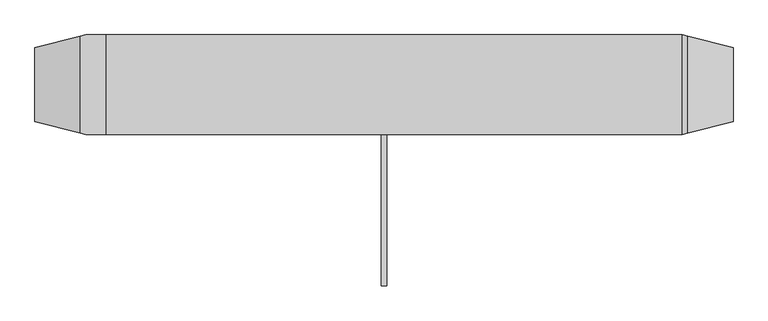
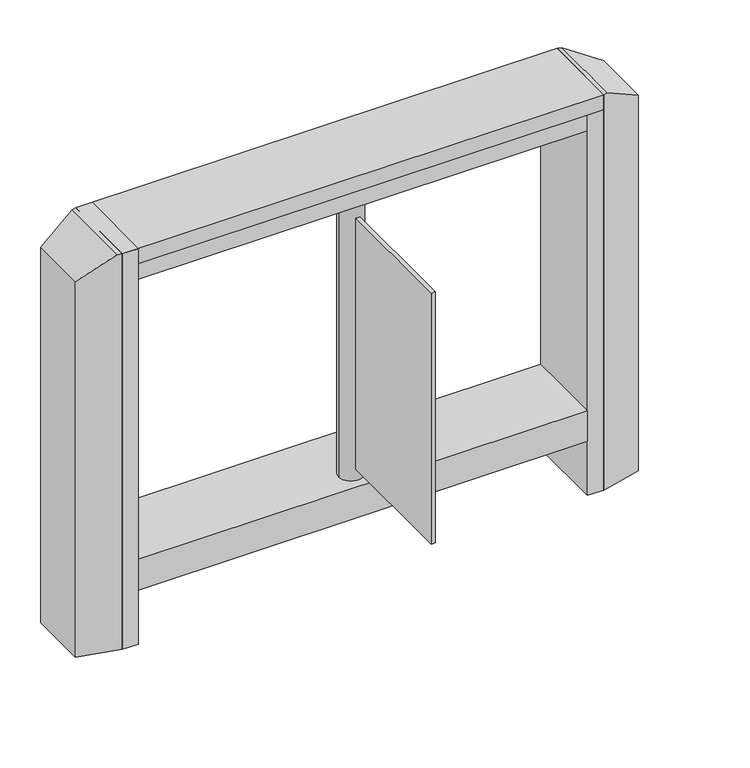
"""IFC4 building model written with IfcOpenShell, lengths in millimetres: proxy geometry, Gotschlich_Турникет_Axioma_DF_Боковой_Модуль_R18 : Axioma LW650."""

from ifc_helpers import new_model, si_unit, point, frame, frame_2d, origin, origin_with_axes, place, context, project, spatial, polyline, circle_curve, trimmed, segment, composite_curve, outline, extrude, faceted_brep, source, transform, mapped, element, save


def mechanical_equipment_c56998ff(model_context):
    return source(origin(), model_context, "Body", "SolidModel", [
        extrude(outline(polyline([(5.0, -48.0201137), (5.0, -398.0201137), (-5.0, -398.0201137), (-5.0, -48.0201137), (5.0, -48.0201137)])), frame((0.0, 0.0, 250.0), z_axis=(0.0, 0.0, 1.0), x_axis=(1.0, 0.0, 0.0)), (0.0, 0.0, 1.0), 650.0),
        extrude(outline(composite_curve([segment(trimmed(circle_curve(frame_2d((0.0, -48.0201137)), 30.0), [point((30.0, -48.0201137))], [point((-30.0, -48.0201137))], False, "CARTESIAN"), True, "CONTINUOUS"), segment(trimmed(circle_curve(frame_2d((0.0, -48.0201137)), 30.0), [point((-30.0, -48.0201137))], [point((30.0, -48.0201137))], False, "CARTESIAN"), True, "CONTINUOUS")], self_intersect=False)), frame((0.0, 0.0, 220.0), z_axis=(0.0, 0.0, 1.0), x_axis=(1.0, 0.0, 0.0)), (0.0, 0.0, 1.0), 725.0),
        faceted_brep([(-550.0, -98.5, 0.0), (-550.0, -98.5, 1025.0), (-590.0, -98.5, 1025.0), (-590.0, -98.5, 0.0), (-550.0, 98.5, 1025.0), (-550.0, 98.5, 0.0), (-590.0, 98.5, 0.0), (-590.0, 98.5, 1025.0), (-690.0, -73.5, 0.0), (-690.0, 73.5, 0.0), (-600.0, 96.0, 1025.0), (-600.0, -96.0, 1025.0), (-690.0, 73.5, 973.0384758), (-690.0, -73.5, 973.0384758)], [[[0, 1, 2, 3]], [[4, 5, 6, 7]], [[5, 0, 3, 8, 9, 6]], [[1, 0, 5, 4]], [[1, 4, 7, 10, 11, 2]], [[11, 10, 12, 13]], [[13, 12, 9, 8]], [[7, 6, 9, 12, 10]], [[3, 2, 11, 13, 8]]]),
        faceted_brep([(690.0, 73.5, 973.0384758), (690.0, -73.5, 973.0384758), (690.0, -73.5, 0.0), (690.0, 73.5, 0.0), (600.0, 96.0, 1025.0), (600.0, -96.0, 1025.0), (590.0, 98.5, 1025.0), (590.0, -98.5, 1025.0), (590.0, 98.5, 0.0), (590.0, -98.5, 0.0)], [[[0, 1, 2, 3]], [[1, 0, 4, 5]], [[6, 7, 5, 4]], [[7, 6, 8, 9]], [[9, 8, 3, 2]], [[2, 1, 5, 7, 9]], [[0, 3, 8, 6, 4]]]),
        extrude(outline(polyline([(-550.0, 98.5), (550.0, 98.5), (550.0, -98.5), (-550.0, -98.5), (-550.0, 98.5)])), frame((0.0, 0.0, 140.0), z_axis=(0.0, 0.0, 1.0), x_axis=(1.0, 0.0, 0.0)), (0.0, 0.0, 1.0), 80.0),
        extrude(outline(polyline([(-590.0, 98.5), (-550.0, 98.5), (-550.0, -98.5), (-590.0, -98.5), (-590.0, 98.5)])), origin_with_axes(), (0.0, 0.0, 1.0), 985.0),
        extrude(outline(polyline([(550.0, 98.5), (590.0, 98.5), (590.0, -98.5), (550.0, -98.5), (550.0, 98.5)])), origin_with_axes(), (0.0, 0.0, 1.0), 985.0),
        extrude(outline(polyline([(-550.0, 98.5), (550.0, 98.5), (550.0, -98.5), (-550.0, -98.5), (-550.0, 98.5)])), frame((0.0, 0.0, 945.0), z_axis=(0.0, 0.0, 1.0), x_axis=(1.0, 0.0, 0.0)), (0.0, 0.0, 1.0), 40.0),
        extrude(outline(polyline([(-590.0, 98.5), (590.0, 98.5), (590.0, -98.5), (-590.0, -98.5), (-590.0, 98.5)])), frame((0.0, 0.0, 985.0), z_axis=(0.0, 0.0, 1.0), x_axis=(1.0, 0.0, 0.0)), (0.0, 0.0, 1.0), 40.0),
    ])


if __name__ == "__main__":
    model = new_model("IFC4")
    model_context = context("Model", 3, world=origin())
    ifc_project = project(units=[si_unit("LENGTHUNIT", "METRE", prefix="MILLI")], contexts=[model_context])
    site = spatial("IfcSite", under=ifc_project)
    building = spatial("IfcBuilding", under=site)
    placement = place(None, origin())
    mechanical_equipment_shape = mechanical_equipment_c56998ff(model_context)
    element("IfcBuildingElementProxy", 1, Name="Gotschlich_Турникет_Axioma_DF_Боковой_Модуль_R18 : Axioma LW650", ObjectType="Gotschlich_Турникет_Axioma_DF_Боковой_Модуль_R18 : Axioma LW650", at=placement, inside=building, context=model_context, shape_type="MappedRepresentation", body=[
        mapped(mechanical_equipment_shape, transform((0.0, 0.0, 0.0), x_axis=(1.0, 0.0, 0.0), y_axis=(0.0, 1.0, 0.0), z_axis=(0.0, 0.0, 1.0))),
    ])
    save(model, "model.ifc")
